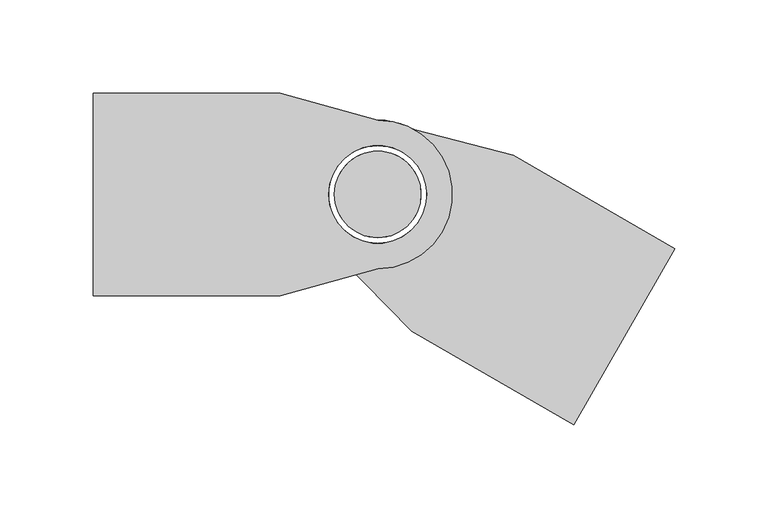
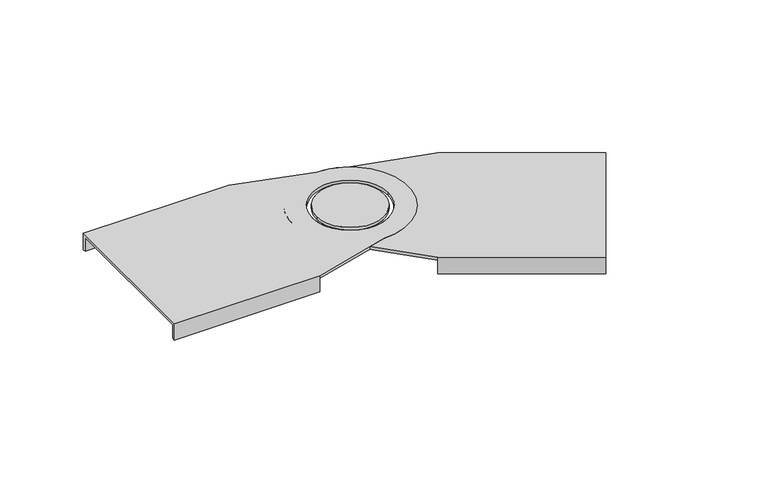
"""IFC4 building model written with IfcOpenShell, lengths in millimetres: cable carrier fitting geometry, BAKS_LD_BEND_Articulated connector_LGC : LGC_H100."""

from ifc_helpers import new_model, si_unit, frame, origin, place, context, project, spatial, polyline, circle_curve, source, transform, mapped, element, save
from ifc_brep_helpers import plane_surface, cylinder_surface, revolved_surface, advanced_brep


def cable_carrier_fitting_ece48d34(model_context):
    return source(origin(), model_context, "Body", "AdvancedBrep", [
        advanced_brep(
        [(-153.0, -54.5, 2.0), (-52.5, -54.5, 2.0), (0.0, -40.0, 2.0), (0.0, 40.0, 2.0), (-52.5, 54.5, 2.0), (-153.0, 54.5, 2.0), (26.25, 0.0, 2.0), (-26.25, 0.0, 2.0), (-52.5, 54.5, 0.0), (0.0, 40.0, 0.0), (0.0, -40.0, 0.0), (-52.5, -54.5, 0.0), (-52.5, -52.5, 0.0), (-153.0, -52.5, 0.0), (-153.0, 52.5, 0.0), (-52.5, 52.5, 0.0), (-26.25, 0.0, 0.0), (26.25, 0.0, 0.0), (-153.0, -54.5, -10.0), (-52.5, -54.5, -10.0), (-52.5, 54.5, -10.0), (-153.0, 54.5, -10.0), (-153.0, 52.5, -10.0), (-153.0, -52.5, -10.0), (-52.5, 52.5, -10.0), (-52.5, -52.5, -10.0)],
        [
            (0, 1),
            (1, 2),
            (2, 3, circle_curve(frame((0.0, 0.0, 2.0), z_axis=(0.0, 0.0, 1.0), x_axis=(-1.0, 0.0, 0.0)), 40.0)),
            (3, 4),
            (4, 5),
            (5, 0),
            (6, 7, circle_curve(frame((0.0, 0.0, 2.0), z_axis=(0.0, 0.0, -1.0), x_axis=(-1.0, 0.0, 0.0)), 26.25)),
            (7, 6, circle_curve(frame((0.0, 0.0, 2.0), z_axis=(0.0, 0.0, -1.0), x_axis=(-1.0, 0.0, 0.0)), 26.25)),
            (8, 9),
            (9, 10, circle_curve(frame((0.0, 0.0, 0.0), z_axis=(0.0, 0.0, -1.0), x_axis=(-1.0, 0.0, 0.0)), 40.0)),
            (10, 11),
            (11, 12),
            (12, 13),
            (13, 14),
            (14, 15),
            (15, 8),
            (16, 17, circle_curve(frame((0.0, 0.0, 0.0), z_axis=(0.0, 0.0, 1.0), x_axis=(-1.0, 0.0, 0.0)), 26.25)),
            (17, 16, circle_curve(frame((0.0, 0.0, 0.0), z_axis=(0.0, 0.0, 1.0), x_axis=(-1.0, 0.0, 0.0)), 26.25)),
            (0, 18),
            (18, 19),
            (19, 11),
            (11, 1),
            (4, 8),
            (8, 20),
            (20, 21),
            (21, 5),
            (21, 22),
            (22, 14),
            (13, 23),
            (23, 18),
            (6, 17),
            (16, 7),
            (10, 2),
            (9, 3),
            (20, 24),
            (24, 22),
            (24, 15),
            (23, 25),
            (25, 19),
            (25, 12),
        ],
        [
            plane_surface(frame((-52.5, -54.5, 2.0), z_axis=(0.0, 0.0, 1.0), x_axis=(1.0, 0.0, 0.0))),
            plane_surface(frame((-52.5, -54.5, 0.0), z_axis=(0.0, 0.0, -1.0), x_axis=(-1.0, 0.0, 0.0))),
            plane_surface(frame((-153.0, -54.5, 2.0), z_axis=(0.0, -1.0, 0.0), x_axis=(0.0, 0.0, -1.0))),
            plane_surface(frame((-52.5, 54.5, 2.0), z_axis=(0.0, 1.0, 0.0), x_axis=(0.0, 0.0, -1.0))),
            plane_surface(frame((-153.0, 54.5, 2.0), z_axis=(-1.0, 0.0, 0.0), x_axis=(0.0, 0.0, -1.0))),
            revolved_surface(polyline([(-26.25, 0.0, 2.0), (-26.25, 0.0, 0.0)]), (0.0, 0.0, 0.0), (0.0, 0.0, 1.0)),
            plane_surface(frame((-52.5, -54.5, 2.0), z_axis=(0.266223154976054, -0.9639114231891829, 0.0), x_axis=(0.0, 0.0, -1.0))),
            cylinder_surface(frame((0.0, 0.0, 0.0), z_axis=(0.0, 0.0, 1.0), x_axis=(-1.0, 0.0, 0.0)), 40.0),
            plane_surface(frame((0.0, 40.0, 2.0), z_axis=(0.26622315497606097, 0.963911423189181, 0.0), x_axis=(0.0, 0.0, -1.0))),
            plane_surface(frame((-52.5, 52.5, -10.0), z_axis=(0.0, 0.0, -1.0), x_axis=(-1.0, 0.0, 0.0))),
            plane_surface(frame((-153.0, 52.5, 0.0), z_axis=(0.0, -1.0, 0.0), x_axis=(0.0, 0.0, -1.0))),
            plane_surface(frame((-52.5, 52.5, 0.0), z_axis=(1.0, 0.0, 0.0), x_axis=(0.0, 0.0, -1.0))),
            plane_surface(frame((-52.5, -54.5, -10.0), z_axis=(0.0, 0.0, -1.0), x_axis=(-1.0, 0.0, 0.0))),
            plane_surface(frame((-52.5, -54.5, 0.0), z_axis=(1.0, 0.0, 0.0), x_axis=(0.0, 0.0, -1.0))),
            plane_surface(frame((-52.5, -52.5, 0.0), z_axis=(0.0, 1.0, 0.0), x_axis=(0.0, 0.0, -1.0))),
        ],
        [
            (0, [[1, 2, 3, 4, 5, 6], [7, 8]]),
            (1, [[9, 10, 11, 12, 13, 14, 15, 16], [17, 18]]),
            (2, [[-1, 19, 20, 21, 22]]),
            (3, [[-5, 23, 24, 25, 26]]),
            (4, [[-19, -6, -26, 27, 28, -14, 29, 30]]),
            (5, [[31, -17, 32, -7]]),
            (5, [[-31, -8, -32, -18]]),
            (6, [[-2, -22, -11, 33]]),
            (7, [[-3, -33, -10, 34]]),
            (8, [[-4, -34, -9, -23]]),
            (9, [[-27, -25, 35, 36]]),
            (10, [[-36, 37, -15, -28]]),
            (11, [[-35, -24, -16, -37]]),
            (12, [[-30, 38, 39, -20]]),
            (13, [[-39, 40, -12, -21]]),
            (14, [[-38, -29, -13, -40]]),
        ],
    ),
        advanced_brep(
        [(23.25, 0.0, 2.0), (-23.25, 0.0, 2.0), (-23.25, 0.0, 0.0), (23.25, 0.0, 0.0)],
        [
            (0, 1, circle_curve(frame((0.0, 0.0, 2.0), z_axis=(0.0, 0.0, 1.0), x_axis=(-1.0, 0.0, 0.0)), 23.25)),
            (1, 0, circle_curve(frame((0.0, 0.0, 2.0), z_axis=(0.0, 0.0, 1.0), x_axis=(-1.0, 0.0, 0.0)), 23.25)),
            (2, 3, circle_curve(frame((0.0, 0.0, 0.0), z_axis=(0.0, 0.0, -1.0), x_axis=(-1.0, 0.0, 0.0)), 23.25)),
            (3, 2, circle_curve(frame((0.0, 0.0, 0.0), z_axis=(0.0, 0.0, -1.0), x_axis=(-1.0, 0.0, 0.0)), 23.25)),
            (0, 3),
            (2, 1),
        ],
        [
            plane_surface(frame((-52.5, -54.5, 2.0), z_axis=(0.0, 0.0, 1.0), x_axis=(1.0, 0.0, 0.0))),
            plane_surface(frame((-52.5, -54.5, 0.0), z_axis=(0.0, 0.0, -1.0), x_axis=(-1.0, 0.0, 0.0))),
            cylinder_surface(frame((0.0, 0.0, 0.0), z_axis=(0.0, 0.0, -1.0), x_axis=(-1.0, 0.0, 0.0)), 23.25),
        ],
        [
            (0, [[1, 2]]),
            (1, [[3, 4]]),
            (2, [[5, -3, 6, -1]]),
            (2, [[-5, -2, -6, -4]]),
        ],
    ),
        advanced_brep(
        [(105.2518868, -123.6983845, 2.0), (159.7518868, -29.3016155, 2.0), (72.7163337, 20.9483845, 2.0), (20.0, 34.6410162, 2.0), (-20.0, -34.6410162, 2.0), (18.2163337, -73.4483845, 2.0), (-22.7331668, 13.125, 2.0), (22.7331668, -13.125, 2.0), (72.7163337, 20.9483845, 0.0), (71.7163337, 19.2163337, 0.0), (158.7518868, -31.0336663, 0.0), (106.2518868, -121.9663337, 0.0), (19.2163337, -71.7163337, 0.0), (18.2163337, -73.4483845, 0.0), (-20.0, -34.6410162, 0.0), (20.0, 34.6410162, 0.0), (22.7331668, -13.125, 0.0), (-22.7331668, 13.125, 0.0), (18.2163337, -73.4483845, -10.0), (105.2518868, -123.6983845, -10.0), (159.7518868, -29.3016155, -10.0), (72.7163337, 20.9483845, -10.0), (106.2518868, -121.9663337, -10.0), (158.7518868, -31.0336663, -10.0), (71.7163337, 19.2163337, -10.0), (19.2163337, -71.7163337, -10.0)],
        [
            (0, 1),
            (1, 2),
            (2, 3),
            (3, 4, circle_curve(frame((0.0, 0.0, 2.0), z_axis=(0.0, 0.0, 1.0), x_axis=(0.8660254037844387, -0.49999999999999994, 0.0)), 40.0)),
            (4, 5),
            (5, 0),
            (6, 7, circle_curve(frame((0.0, 0.0, 2.0), z_axis=(0.0, 0.0, -1.0), x_axis=(0.8660254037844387, -0.49999999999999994, 0.0)), 26.25)),
            (7, 6, circle_curve(frame((0.0, 0.0, 2.0), z_axis=(0.0, 0.0, -1.0), x_axis=(0.8660254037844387, -0.49999999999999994, 0.0)), 26.25)),
            (8, 9),
            (9, 10),
            (10, 11),
            (11, 12),
            (12, 13),
            (13, 14),
            (14, 15, circle_curve(frame((0.0, 0.0, 0.0), z_axis=(0.0, 0.0, -1.0), x_axis=(0.8660254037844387, -0.49999999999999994, 0.0)), 40.0)),
            (15, 8),
            (16, 17, circle_curve(frame((0.0, 0.0, 0.0), z_axis=(0.0, 0.0, 1.0), x_axis=(0.8660254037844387, -0.49999999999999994, 0.0)), 26.25)),
            (17, 16, circle_curve(frame((0.0, 0.0, 0.0), z_axis=(0.0, 0.0, 1.0), x_axis=(0.8660254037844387, -0.49999999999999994, 0.0)), 26.25)),
            (5, 13),
            (13, 18),
            (18, 19),
            (19, 0),
            (1, 20),
            (20, 21),
            (21, 8),
            (8, 2),
            (19, 22),
            (22, 11),
            (10, 23),
            (23, 20),
            (7, 16),
            (17, 6),
            (4, 14),
            (3, 15),
            (23, 24),
            (24, 21),
            (9, 24),
            (18, 25),
            (25, 22),
            (12, 25),
        ],
        [
            plane_surface(frame((18.2163337, -73.4483845, 2.0), z_axis=(0.0, 0.0, 1.0), x_axis=(-0.8660254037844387, 0.49999999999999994, 0.0))),
            plane_surface(frame((18.2163337, -73.4483845, 0.0), z_axis=(0.0, 0.0, -1.0), x_axis=(0.8660254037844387, -0.49999999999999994, 0.0))),
            plane_surface(frame((105.2518868, -123.6983845, 2.0), z_axis=(-0.49999999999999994, -0.8660254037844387, 0.0), x_axis=(0.0, 0.0, -1.0))),
            plane_surface(frame((72.7163337, 20.9483845, 2.0), z_axis=(0.5, 0.8660254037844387, 0.0), x_axis=(0.0, 0.0, -1.0))),
            plane_surface(frame((159.7518868, -29.3016155, 2.0), z_axis=(0.8660254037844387, -0.49999999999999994, 0.0), x_axis=(0.0, 0.0, -1.0))),
            revolved_surface(polyline([(22.733166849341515, -13.124999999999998, 2.0), (22.733166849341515, -13.124999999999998, 0.0)]), (0.0, 0.0, 0.0), (0.0, 0.0, 1.0)),
            plane_surface(frame((18.2163337, -73.4483845, 2.0), z_axis=(-0.7125117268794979, -0.7016602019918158, 0.0), x_axis=(0.0, 0.0, -1.0))),
            cylinder_surface(frame((0.0, 0.0, 0.0), z_axis=(0.0, 0.0, 1.0), x_axis=(0.8660254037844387, -0.49999999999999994, 0.0)), 40.0),
            plane_surface(frame((20.0, 34.6410162, 2.0), z_axis=(0.2513996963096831, 0.9678833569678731, 0.0), x_axis=(0.0, 0.0, -1.0))),
            plane_surface(frame((71.7163337, 19.2163337, -10.0), z_axis=(0.0, 0.0, -1.0), x_axis=(0.8660254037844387, -0.49999999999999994, 0.0))),
            plane_surface(frame((158.7518868, -31.0336663, 0.0), z_axis=(-0.49999999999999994, -0.8660254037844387, 0.0), x_axis=(0.0, 0.0, -1.0))),
            plane_surface(frame((71.7163337, 19.2163337, 0.0), z_axis=(-0.8660254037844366, 0.5000000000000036, 0.0), x_axis=(0.0, 0.0, -1.0))),
            plane_surface(frame((18.2163337, -73.4483845, -10.0), z_axis=(0.0, 0.0, -1.0), x_axis=(0.8660254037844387, -0.49999999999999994, 0.0))),
            plane_surface(frame((18.2163337, -73.4483845, 0.0), z_axis=(-0.8660254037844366, 0.5000000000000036, 0.0), x_axis=(0.0, 0.0, -1.0))),
            plane_surface(frame((19.2163337, -71.7163337, 0.0), z_axis=(0.49999999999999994, 0.8660254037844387, 0.0), x_axis=(0.0, 0.0, -1.0))),
        ],
        [
            (0, [[1, 2, 3, 4, 5, 6], [7, 8]]),
            (1, [[9, 10, 11, 12, 13, 14, 15, 16], [17, 18]]),
            (2, [[19, 20, 21, 22, -6]]),
            (3, [[23, 24, 25, 26, -2]]),
            (4, [[27, 28, -11, 29, 30, -23, -1, -22]]),
            (5, [[-8, 31, -18, 32]]),
            (5, [[-17, -31, -7, -32]]),
            (6, [[33, -14, -19, -5]]),
            (7, [[34, -15, -33, -4]]),
            (8, [[-26, -16, -34, -3]]),
            (9, [[35, 36, -24, -30]]),
            (10, [[-29, -10, 37, -35]]),
            (11, [[-37, -9, -25, -36]]),
            (12, [[-21, 38, 39, -27]]),
            (13, [[-20, -13, 40, -38]]),
            (14, [[-40, -12, -28, -39]]),
        ],
    ),
        advanced_brep(
        [(-20.1350906, 11.625, 2.0), (20.1350906, -11.625, 2.0), (20.1350906, -11.625, 0.0), (-20.1350906, 11.625, 0.0)],
        [
            (0, 1, circle_curve(frame((0.0, 0.0, 2.0), z_axis=(0.0, 0.0, 1.0), x_axis=(0.8660254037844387, -0.49999999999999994, 0.0)), 23.25)),
            (1, 0, circle_curve(frame((0.0, 0.0, 2.0), z_axis=(0.0, 0.0, 1.0), x_axis=(0.8660254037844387, -0.49999999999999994, 0.0)), 23.25)),
            (2, 3, circle_curve(frame((0.0, 0.0, 0.0), z_axis=(0.0, 0.0, -1.0), x_axis=(0.8660254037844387, -0.49999999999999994, 0.0)), 23.25)),
            (3, 2, circle_curve(frame((0.0, 0.0, 0.0), z_axis=(0.0, 0.0, -1.0), x_axis=(0.8660254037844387, -0.49999999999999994, 0.0)), 23.25)),
            (1, 2),
            (3, 0),
        ],
        [
            plane_surface(frame((18.2163337, -73.4483845, 2.0), z_axis=(0.0, 0.0, 1.0), x_axis=(-0.8660254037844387, 0.49999999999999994, 0.0))),
            plane_surface(frame((18.2163337, -73.4483845, 0.0), z_axis=(0.0, 0.0, -1.0), x_axis=(0.8660254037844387, -0.49999999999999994, 0.0))),
            cylinder_surface(frame((0.0, 0.0, 0.0), z_axis=(0.0, 0.0, -1.0), x_axis=(0.8660254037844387, -0.49999999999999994, 0.0)), 23.25),
        ],
        [
            (0, [[1, 2]]),
            (1, [[3, 4]]),
            (2, [[-2, 5, -4, 6]]),
            (2, [[-3, -5, -1, -6]]),
        ],
    ),
    ])


if __name__ == "__main__":
    model = new_model("IFC4")
    model_context = context("Model", 3, world=origin())
    ifc_project = project(units=[si_unit("LENGTHUNIT", "METRE", prefix="MILLI")], contexts=[model_context])
    site = spatial("IfcSite", under=ifc_project)
    building = spatial("IfcBuilding", under=site)
    placement = place(None, origin())
    cable_carrier_fitting_shape = cable_carrier_fitting_ece48d34(model_context)
    element("IfcCableCarrierFitting", 1, ObjectType="BAKS_LD_BEND_Articulated connector_LGC : LGC_H100", at=placement, inside=building, context=model_context, shape_type="MappedRepresentation", body=[
        mapped(cable_carrier_fitting_shape, transform((0.0, 0.0, 0.0), x_axis=(1.0, 0.0, 0.0), y_axis=(0.0, 1.0, 0.0), z_axis=(0.0, 0.0, 1.0))),
    ])
    save(model, "model.ifc")
